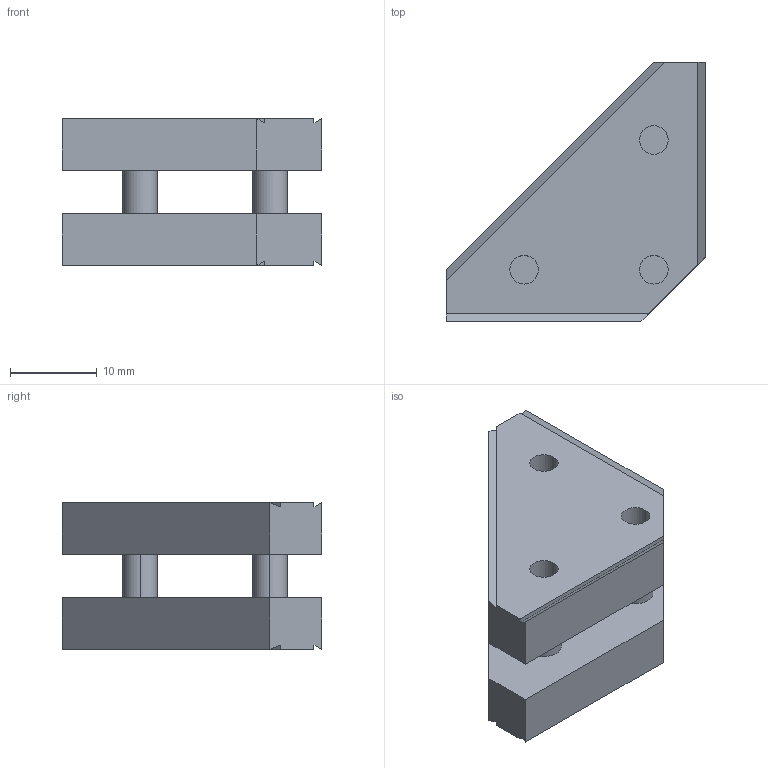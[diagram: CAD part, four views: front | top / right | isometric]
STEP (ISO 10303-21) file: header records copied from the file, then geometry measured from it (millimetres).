
FILE_DESCRIPTION (( 'STEP AP203' ), '1' );
FILE_NAME ('X-Z Verbindung dL30.STEP', '2002-07-08T12:33:31', ( '' ), ( '' ), 'SwSTEP 2.0', 'SolidWorks 2002127', '' );
FILE_SCHEMA (( 'CONFIG_CONTROL_DESIGN' ));
Length unit declared in the file: millimetre
Products named in the file (1): X-Z Verbindung dL30
Bounding box: 30 x 30 x 17 mm (x, y, z)
Volume: 7003 mm3; surface area: 3958.5 mm2
Topology: 1 solids, 1 shells, 43 faces, 108 edges, 72 vertices
Faces by surface type: plane 31, cylinder 12
Entity records: 1371 total; most frequent: CARTESIAN_POINT 224, DIRECTION 220, ORIENTED_EDGE 216, EDGE_CURVE 108, LINE 84, VECTOR 84, VERTEX_POINT 72, AXIS2_PLACEMENT_3D 68
